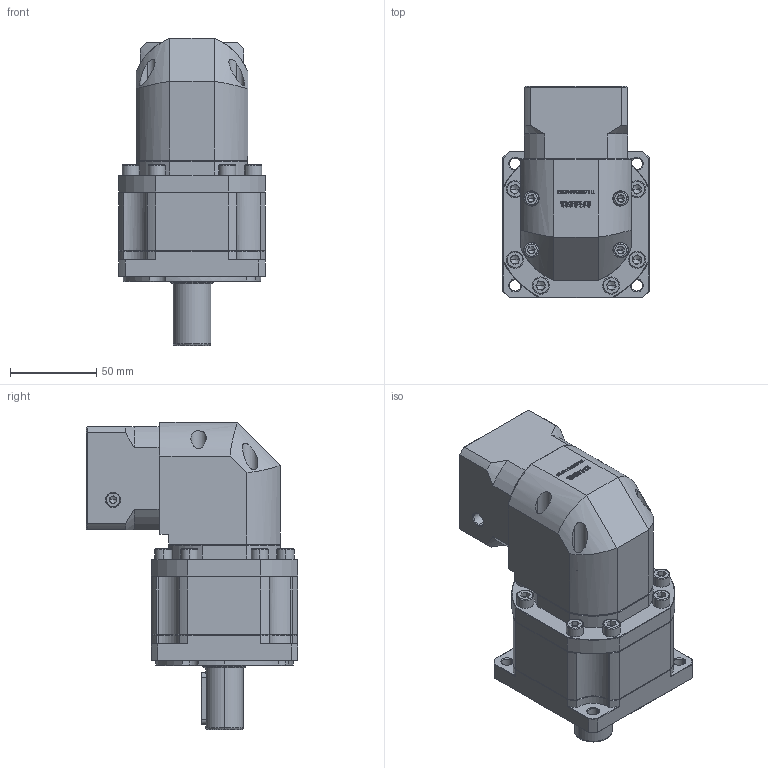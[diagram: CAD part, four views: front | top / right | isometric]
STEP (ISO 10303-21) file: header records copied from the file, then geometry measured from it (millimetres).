
FILE_DESCRIPTION (( 'STEP AP214' ), '1' );
FILE_NAME ('ZBR90-D22-L2-8-38.1-47.14x47.14-M4.step', '2022-05-07T15:21:04', ( '' ), ( 'Microsoft' ), 'SwSTEP 2.0', 'SolidWorks 2016', '' );
FILE_SCHEMA (( 'AUTOMOTIVE_DESIGN' ));
Length unit declared in the file: millimetre
Products named in the file (1): ZBR90-D22-L2-8-38.1-47.14x47.14-M4
Bounding box: 85 x 122.7 x 178.5 mm (x, y, z)
Volume: 807080.9 mm3; surface area: 100933.7 mm2
Topology: 5 solids, 5 shells, 3034 faces, 8144 edges, 5255 vertices
Faces by surface type: plane 1599, bspline 608, cylinder 439, cone 368, torus 20
Entity records: 161210 total; most frequent: CARTESIAN_POINT 56451, ORIENTED_EDGE 16196, DIRECTION 12507, EDGE_CURVE 8098, VECTOR 5331, LINE 5331, VERTEX_POINT 5255, AXIS2_PLACEMENT_3D 3588
